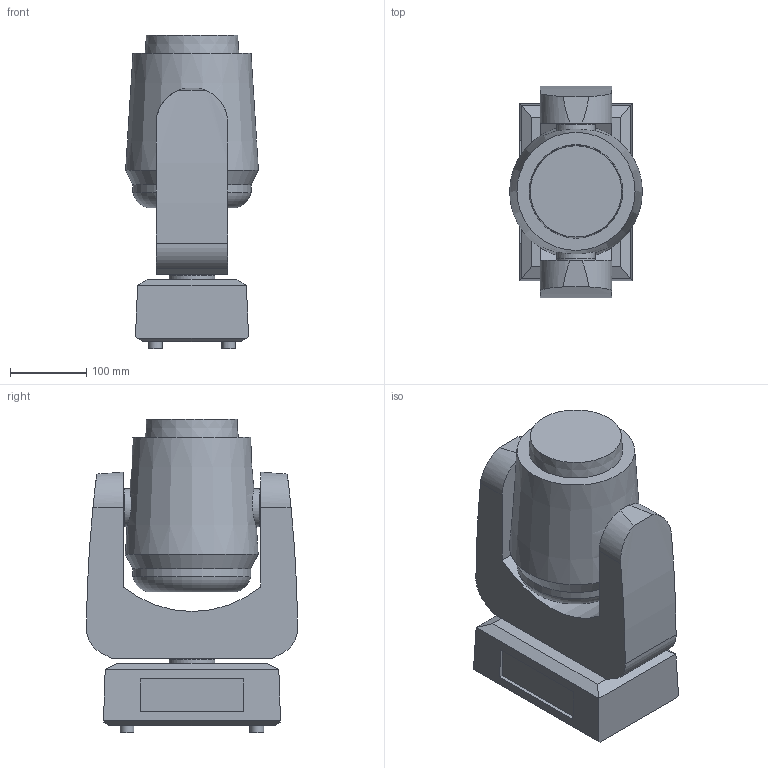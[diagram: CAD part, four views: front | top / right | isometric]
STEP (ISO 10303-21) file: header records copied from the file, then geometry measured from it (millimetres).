
FILE_DESCRIPTION(/* description */ ('Unknown'),/* implementation_level */ '2;1');
FILE_NAME(/* name */ '3D_Robin Spikie',/* time_stamp */ '2020-03-20T07:51:27+01:00',/* author */ ('Ing.Rostislav HĂˇba'),/* organization */ ('ROBE lighting'),/* preprocessor_version */ 'ST-DEVELOPER v16.7',/* originating_system */ 'Solid Edge',/* authorisation */ 'Unknown');
FILE_SCHEMA (('AUTOMOTIVE_DESIGN {1 0 10303 214 3 1 1}'));
Length unit declared in the file: millimetre
Products named in the file (4): 3D_Robin Spikie; SpikieBase; SpikieArm; Spikie Head
Assembly tree (3 placements, depth 2):
  3D_Robin Spikie
    SpikieBase
    SpikieArm
    Spikie Head
Bounding box: 173.78 x 276.24 x 410.12 mm (x, y, z)
Volume: 10562423.5 mm3; surface area: 478993.5 mm2
Topology: 3 solids, 3 shells, 62 faces, 139 edges, 93 vertices
Faces by surface type: plane 39, cylinder 19, cone 3, torus 1
Full cylindrical faces by diameter (mm): 17.819 x4, 50 x3, 60 x2, 154.326 x1
Entity records: 1811 total; most frequent: CARTESIAN_POINT 396, DIRECTION 284, ORIENTED_EDGE 234, EDGE_CURVE 117, AXIS2_PLACEMENT_3D 107, EDGE_LOOP 88, FACE_BOUND 88, VERTEX_POINT 85
